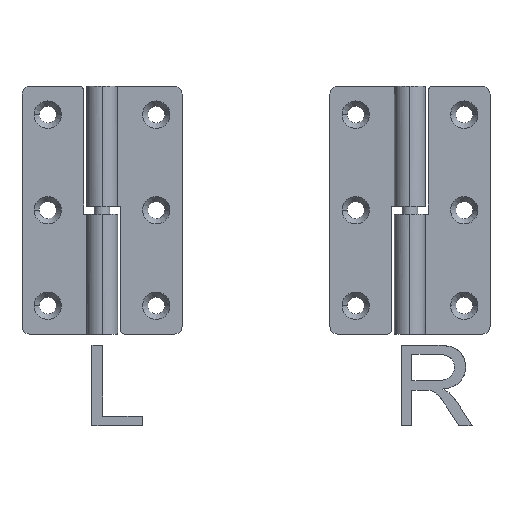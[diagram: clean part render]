
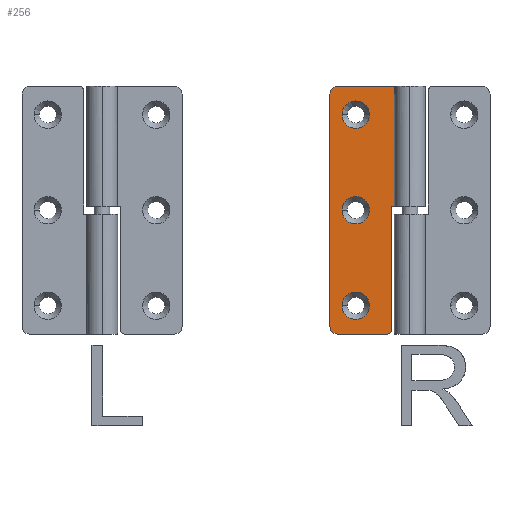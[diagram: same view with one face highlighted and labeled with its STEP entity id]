
A CAD part, top view. The second image highlights one B-rep face of the part: STEP entity #256.
In plain terms, the highlighted planar face has unit normal (0, 0, 1).
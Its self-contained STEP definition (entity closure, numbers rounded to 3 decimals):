
#19=FACE_BOUND('',#496,.T.);
#20=FACE_BOUND('',#497,.T.);
#21=FACE_BOUND('',#498,.T.);
#49=B_SPLINE_CURVE_WITH_KNOTS('',1,(#2955,#2956),.UNSPECIFIED.,.F.,.F.,
(2,2),(0.,90.),.UNSPECIFIED.);
#51=B_SPLINE_CURVE_WITH_KNOTS('',1,(#2959,#2960),.UNSPECIFIED.,.F.,.F.,
(2,2),(0.,47.5),.UNSPECIFIED.);
#52=B_SPLINE_CURVE_WITH_KNOTS('',1,(#2961,#2962),.UNSPECIFIED.,.F.,.F.,
(2,2),(0.,7.),.UNSPECIFIED.);
#53=B_SPLINE_CURVE_WITH_KNOTS('',1,(#2963,#2964),.UNSPECIFIED.,.F.,.F.,
(2,2),(0.,46.5),.UNSPECIFIED.);
#54=B_SPLINE_CURVE_WITH_KNOTS('',1,(#2965,#2966),.UNSPECIFIED.,.F.,.F.,
(2,2),(0.,28.),.UNSPECIFIED.);
#55=B_SPLINE_CURVE_WITH_KNOTS('',1,(#2967,#2968),.UNSPECIFIED.,.F.,.F.,
(2,2),(0.,19.),.UNSPECIFIED.);
#256=ADVANCED_FACE('',(#374,#19,#20,#21),#2001,.T.);
#374=FACE_OUTER_BOUND('',#495,.T.);
#495=EDGE_LOOP('',(#684,#685,#686,#687,#688,#689,#690,#691,#692));
#496=EDGE_LOOP('',(#693,#694));
#497=EDGE_LOOP('',(#695,#696));
#498=EDGE_LOOP('',(#697,#698));
#684=ORIENTED_EDGE('',*,*,#1270,.T.);
#685=ORIENTED_EDGE('',*,*,#1271,.T.);
#686=ORIENTED_EDGE('',*,*,#1272,.T.);
#687=ORIENTED_EDGE('',*,*,#1273,.T.);
#688=ORIENTED_EDGE('',*,*,#1290,.T.);
#689=ORIENTED_EDGE('',*,*,#1268,.F.);
#690=ORIENTED_EDGE('',*,*,#1289,.T.);
#691=ORIENTED_EDGE('',*,*,#1274,.T.);
#692=ORIENTED_EDGE('',*,*,#1295,.T.);
#693=ORIENTED_EDGE('',*,*,#1251,.F.);
#694=ORIENTED_EDGE('',*,*,#1299,.F.);
#695=ORIENTED_EDGE('',*,*,#1255,.F.);
#696=ORIENTED_EDGE('',*,*,#1301,.F.);
#697=ORIENTED_EDGE('',*,*,#1296,.F.);
#698=ORIENTED_EDGE('',*,*,#1246,.F.);
#1246=EDGE_CURVE('',#1800,#1801,#1547,.T.);
#1251=EDGE_CURVE('',#1805,#1806,#1550,.T.);
#1255=EDGE_CURVE('',#1809,#1810,#1552,.T.);
#1268=EDGE_CURVE('',#1824,#1825,#49,.T.);
#1270=EDGE_CURVE('',#1826,#1827,#51,.T.);
#1271=EDGE_CURVE('',#1827,#1828,#52,.T.);
#1272=EDGE_CURVE('',#1828,#1829,#53,.T.);
#1273=EDGE_CURVE('',#1829,#1830,#54,.T.);
#1274=EDGE_CURVE('',#1831,#1832,#55,.T.);
#1289=EDGE_CURVE('',#1824,#1831,#1560,.T.);
#1290=EDGE_CURVE('',#1830,#1825,#1561,.T.);
#1295=EDGE_CURVE('',#1832,#1826,#1564,.T.);
#1296=EDGE_CURVE('',#1801,#1800,#1565,.T.);
#1299=EDGE_CURVE('',#1806,#1805,#1568,.T.);
#1301=EDGE_CURVE('',#1810,#1809,#1570,.T.);
#1547=TRIMMED_CURVE($,#1651,(#2894),(#2895),.T.,.CARTESIAN.);
#1550=TRIMMED_CURVE($,#1654,(#2911),(#2912),.T.,.CARTESIAN.);
#1552=TRIMMED_CURVE($,#1656,(#2925),(#2926),.T.,.CARTESIAN.);
#1560=TRIMMED_CURVE($,#1664,(#3015),(#3016),.T.,.CARTESIAN.);
#1561=TRIMMED_CURVE($,#1665,(#3018),(#3019),.T.,.CARTESIAN.);
#1564=TRIMMED_CURVE($,#1668,(#3031),(#3032),.T.,.CARTESIAN.);
#1565=TRIMMED_CURVE($,#1669,(#3034),(#3035),.T.,.CARTESIAN.);
#1568=TRIMMED_CURVE($,#1672,(#3043),(#3044),.T.,.CARTESIAN.);
#1570=TRIMMED_CURVE($,#1674,(#3049),(#3050),.T.,.CARTESIAN.);
#1651=CIRCLE('',#2203,5.3);
#1654=CIRCLE('',#2206,5.3);
#1656=CIRCLE('',#2208,5.3);
#1664=CIRCLE('',#2216,3.);
#1665=CIRCLE('',#2217,3.);
#1668=CIRCLE('',#2220,2.);
#1669=CIRCLE('',#2221,5.3);
#1672=CIRCLE('',#2224,5.3);
#1674=CIRCLE('',#2226,5.3);
#1800=VERTEX_POINT('',#2852);
#1801=VERTEX_POINT('',#2853);
#1805=VERTEX_POINT('',#2857);
#1806=VERTEX_POINT('',#2858);
#1809=VERTEX_POINT('',#2861);
#1810=VERTEX_POINT('',#2862);
#1824=VERTEX_POINT('',#2876);
#1825=VERTEX_POINT('',#2877);
#1826=VERTEX_POINT('',#2878);
#1827=VERTEX_POINT('',#2879);
#1828=VERTEX_POINT('',#2880);
#1829=VERTEX_POINT('',#2881);
#1830=VERTEX_POINT('',#2882);
#1831=VERTEX_POINT('',#2883);
#1832=VERTEX_POINT('',#2884);
#2001=PLANE('',#2192);
#2192=AXIS2_PLACEMENT_3D('',#2780,#2396,$);
#2203=AXIS2_PLACEMENT_3D($,#2893,#2407,#2408);
#2206=AXIS2_PLACEMENT_3D($,#2910,#2413,#2414);
#2208=AXIS2_PLACEMENT_3D($,#2924,#2417,#2418);
#2216=AXIS2_PLACEMENT_3D($,#3014,#2433,#2434);
#2217=AXIS2_PLACEMENT_3D($,#3017,#2435,#2436);
#2220=AXIS2_PLACEMENT_3D($,#3030,#2441,#2442);
#2221=AXIS2_PLACEMENT_3D($,#3033,#2443,#2444);
#2224=AXIS2_PLACEMENT_3D($,#3042,#2449,#2450);
#2226=AXIS2_PLACEMENT_3D($,#3048,#2453,#2454);
#2396=DIRECTION('',(0.,0.,1.));
#2407=DIRECTION('',(0.,0.,1.));
#2408=DIRECTION('',(-1.,0.,0.));
#2413=DIRECTION('',(0.,0.,1.));
#2414=DIRECTION('',(1.,0.,0.));
#2417=DIRECTION('',(0.,0.,1.));
#2418=DIRECTION('',(1.,0.,0.));
#2433=DIRECTION('',(0.,0.,1.));
#2434=DIRECTION('',(-1.,0.,0.));
#2435=DIRECTION('',(0.,0.,1.));
#2436=DIRECTION('',(0.,1.,0.));
#2441=DIRECTION('',(0.,0.,1.));
#2442=DIRECTION('',(0.,-1.,0.));
#2443=DIRECTION('',(0.,0.,1.));
#2444=DIRECTION('',(1.,0.,0.));
#2449=DIRECTION('',(0.,0.,1.));
#2450=DIRECTION('',(-1.,0.,0.));
#2453=DIRECTION('',(0.,0.,1.));
#2454=DIRECTION('',(-1.,0.,0.));
#2780=CARTESIAN_POINT('',(-22.525,-9.612,7.024));
#2852=CARTESIAN_POINT('',(-14.713,85.,7.024));
#2853=CARTESIAN_POINT('',(-4.113,85.,7.024));
#2857=CARTESIAN_POINT('',(-4.113,11.,7.024));
#2858=CARTESIAN_POINT('',(-14.713,11.,7.024));
#2861=CARTESIAN_POINT('',(-4.113,48.,7.024));
#2862=CARTESIAN_POINT('',(-14.713,48.,7.024));
#2876=CARTESIAN_POINT('',(-19.413,3.,7.024));
#2877=CARTESIAN_POINT('',(-19.413,93.,7.024));
#2878=CARTESIAN_POINT('',(4.587,2.,7.024));
#2879=CARTESIAN_POINT('',(4.587,49.5,7.024));
#2880=CARTESIAN_POINT('',(11.587,49.5,7.024));
#2881=CARTESIAN_POINT('',(11.587,96.,7.024));
#2882=CARTESIAN_POINT('',(-16.413,96.,7.024));
#2883=CARTESIAN_POINT('',(-16.413,0.,7.024));
#2884=CARTESIAN_POINT('',(2.587,0.,7.024));
#2893=CARTESIAN_POINT('',(-9.413,85.,7.024));
#2894=CARTESIAN_POINT('',(-14.713,85.,7.024));
#2895=CARTESIAN_POINT('',(-4.113,85.,7.024));
#2910=CARTESIAN_POINT('',(-9.413,11.,7.024));
#2911=CARTESIAN_POINT('',(-4.113,11.,7.024));
#2912=CARTESIAN_POINT('',(-14.713,11.,7.024));
#2924=CARTESIAN_POINT('',(-9.413,48.,7.024));
#2925=CARTESIAN_POINT('',(-4.113,48.,7.024));
#2926=CARTESIAN_POINT('',(-14.713,48.,7.024));
#2955=CARTESIAN_POINT('',(-19.413,3.,7.024));
#2956=CARTESIAN_POINT('',(-19.413,93.,7.024));
#2959=CARTESIAN_POINT('',(4.587,2.,7.024));
#2960=CARTESIAN_POINT('',(4.587,49.5,7.024));
#2961=CARTESIAN_POINT('',(4.587,49.5,7.024));
#2962=CARTESIAN_POINT('',(11.587,49.5,7.024));
#2963=CARTESIAN_POINT('',(11.587,49.5,7.024));
#2964=CARTESIAN_POINT('',(11.587,96.,7.024));
#2965=CARTESIAN_POINT('',(11.587,96.,7.024));
#2966=CARTESIAN_POINT('',(-16.413,96.,7.024));
#2967=CARTESIAN_POINT('',(-16.413,0.,7.024));
#2968=CARTESIAN_POINT('',(2.587,0.,7.024));
#3014=CARTESIAN_POINT('',(-16.413,3.,7.024));
#3015=CARTESIAN_POINT('',(-19.413,3.,7.024));
#3016=CARTESIAN_POINT('',(-16.413,0.,7.024));
#3017=CARTESIAN_POINT('',(-16.413,93.,7.024));
#3018=CARTESIAN_POINT('',(-16.413,96.,7.024));
#3019=CARTESIAN_POINT('',(-19.413,93.,7.024));
#3030=CARTESIAN_POINT('',(2.587,2.,7.024));
#3031=CARTESIAN_POINT('',(2.587,0.,7.024));
#3032=CARTESIAN_POINT('',(4.587,2.,7.024));
#3033=CARTESIAN_POINT('',(-9.413,85.,7.024));
#3034=CARTESIAN_POINT('',(-4.113,85.,7.024));
#3035=CARTESIAN_POINT('',(-14.713,85.,7.024));
#3042=CARTESIAN_POINT('',(-9.413,11.,7.024));
#3043=CARTESIAN_POINT('',(-14.713,11.,7.024));
#3044=CARTESIAN_POINT('',(-4.113,11.,7.024));
#3048=CARTESIAN_POINT('',(-9.413,48.,7.024));
#3049=CARTESIAN_POINT('',(-14.713,48.,7.024));
#3050=CARTESIAN_POINT('',(-4.113,48.,7.024));
